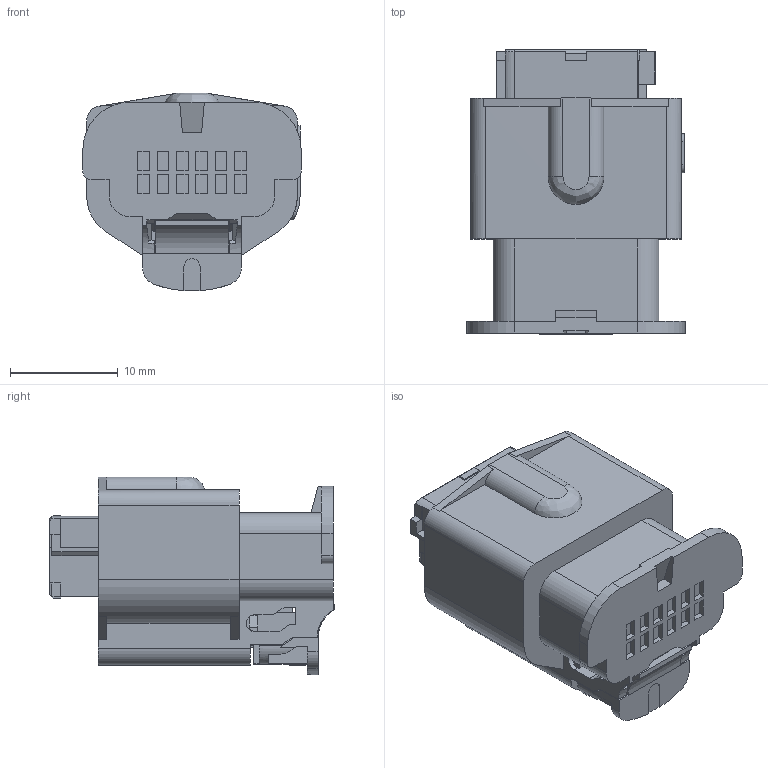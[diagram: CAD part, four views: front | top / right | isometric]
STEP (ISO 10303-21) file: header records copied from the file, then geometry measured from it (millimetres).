
FILE_DESCRIPTION(/* description */ (''),/* implementation_level */ '2;1');
FILE_NAME(/* name */ '35526986-STEP-3D.stp',/* time_stamp */ '2021-12-31T19:59:40+05:00',/* author */ (''),/* organization */ (''),/* preprocessor_version */ 'ST-DEVELOPER v16',/* originating_system */ 'SIEMENS PLM Software NX 11.0',/* authorisation */ '');
FILE_SCHEMA (('AUTOMOTIVE_DESIGN { 1 0 10303 214 3 1 1 1 }'));
Length unit declared in the file: millimetre
Products named in the file (1): cjzt2168E133z6gp
Bounding box: 20.3 x 26.45 x 18.4 mm (x, y, z)
Volume: 4273.1 mm3; surface area: 4677.1 mm2
Topology: 1 solids, 1 shells, 833 faces, 2302 edges, 1492 vertices
Faces by surface type: plane 717, cylinder 89, cone 21, bspline 3, revolution 2, sphere 1
Full cylindrical faces by diameter (mm): 2 x1
Entity records: 26310 total; most frequent: CARTESIAN_POINT 4987, ORIENTED_EDGE 4600, DIRECTION 4125, EDGE_CURVE 2300, LINE 2001, VECTOR 2001, VERTEX_POINT 1491, AXIS2_PLACEMENT_3D 1061
